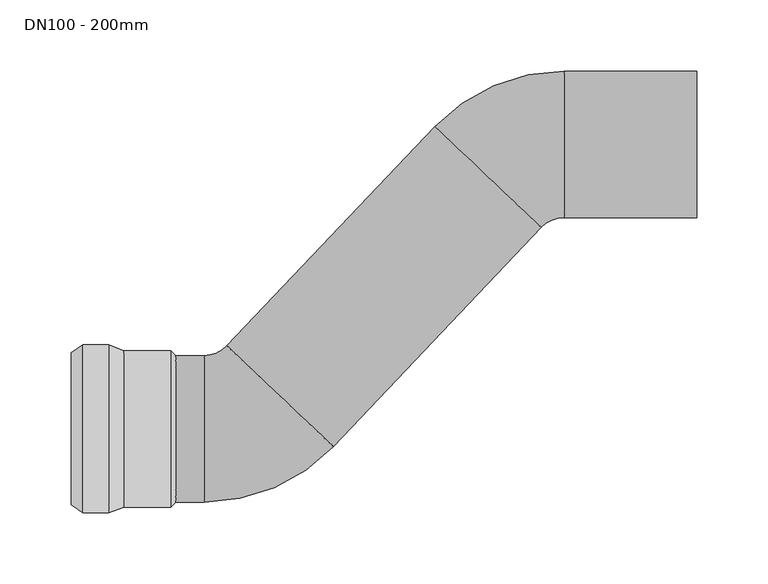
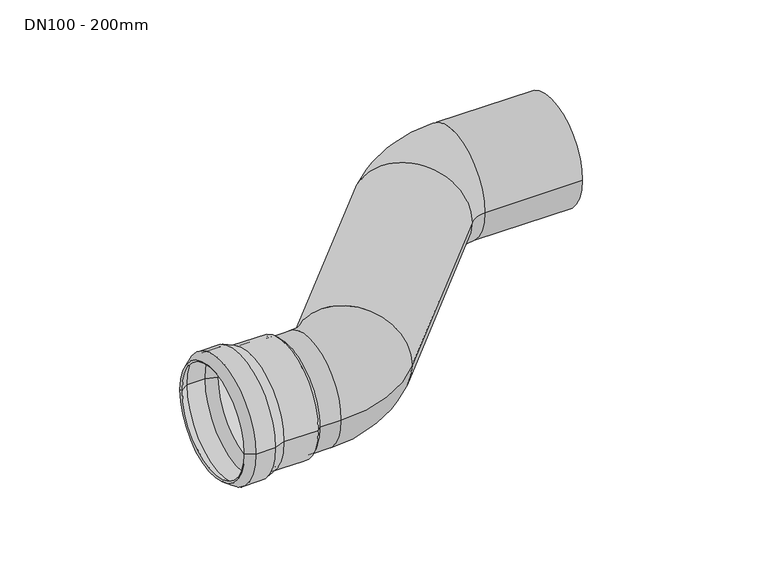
"""IFC4 building model written with IfcOpenShell, lengths in millimetres: valve geometry, PIA_ST_UN_GM-X s-bend_ACO : DN100 - 200mm."""

import ifcopenshell
import ifcopenshell.guid

model = None  # the IFC model being written
_history = None  # IfcOwnerHistory: only IFC2X3 demands one
_inside = {}  # id of a spatial element -> (the spatial element, [elements in it])
_under = {}  # id of a project, library or spatial element -> (it, [spatial elements below it])
_declared = {}  # id of a project -> (the project, [libraries it declares])
_typed = {}  # id of a type object -> (the type object, [elements of that type])
_made_of = {}  # id of a material, layer set ... -> (it, [elements and type objects made of it])


def new_model(schema):
    """Start an empty IFC model of exactly this schema.

    Asked for "IFC4X3", IfcOpenShell would pick the latest addendum, in which some entities
    have other attributes; the version numbers below select the first issue.
    IFC2X3 requires an IfcOwnerHistory on every rooted entity: one is made here for all.
    """
    global model, _history
    if schema == "IFC4X3":
        model = ifcopenshell.file(schema_version=(4, 3, 0, 0))
    else:
        model = ifcopenshell.file(schema=schema)
    _inside.clear()
    _under.clear()
    _declared.clear()
    _typed.clear()
    _made_of.clear()
    _history = None
    if model.schema == "IFC2X3":
        org = make("IfcOrganization", Name="unknown")
        user = make(
            "IfcPersonAndOrganization",
            ThePerson=make("IfcPerson", FamilyName="unknown"),
            TheOrganization=org,
        )
        app = make(
            "IfcApplication",
            ApplicationDeveloper=org,
            Version="unknown",
            ApplicationFullName="unknown",
            ApplicationIdentifier="unknown",
        )
        _history = make(
            "IfcOwnerHistory",
            OwningUser=user,
            OwningApplication=app,
            ChangeAction="ADDED",
            CreationDate=0,
        )
    return model


def make(cls, **values):
    """One entity of the class cls with the attributes given. An attribute that is None is left unset."""
    return model.create_entity(
        cls, **{name: value for name, value in values.items() if value is not None}
    )


def rooted(cls, **values):
    """An entity with a GlobalId (a new one), such as an element, a storey or a relation."""
    return make(cls, GlobalId=ifcopenshell.guid.new(), OwnerHistory=_history, **values)


def si_unit(unit_type, name, prefix=None):
    """IfcSIUnit, for example si_unit("LENGTHUNIT", "METRE", prefix="MILLI")."""
    return make("IfcSIUnit", UnitType=unit_type, Prefix=prefix, Name=name)


def assignment(units):
    """IfcUnitAssignment: the units of a project."""
    return None if units is None else make("IfcUnitAssignment", Units=units)


def point(xyz):
    """IfcCartesianPoint."""
    return None if xyz is None else make("IfcCartesianPoint", Coordinates=xyz)


def direction(xyz):
    """IfcDirection."""
    return None if xyz is None else make("IfcDirection", DirectionRatios=xyz)


def frame(location, z_axis=None, x_axis=None):
    """IfcAxis2Placement3D, a coordinate frame: its origin and axes. An axis left out is left unset."""
    return make(
        "IfcAxis2Placement3D",
        Location=point(location),
        Axis=direction(z_axis),
        RefDirection=direction(x_axis),
    )


def origin():
    """The frame at (0, 0, 0) with its axes left unset."""
    return frame((0.0, 0.0, 0.0))


def place(relative_to, where):
    """IfcLocalPlacement: puts the frame where relative to a parent placement (None: the world)."""
    return make(
        "IfcLocalPlacement", PlacementRelTo=relative_to, RelativePlacement=where
    )


def context(
    kind, dimensions, precision=None, world=None, true_north=None, identifier=None
):
    """IfcGeometricRepresentationContext, for example the 3D "Model" context."""
    return make(
        "IfcGeometricRepresentationContext",
        ContextIdentifier=identifier,
        ContextType=kind,
        CoordinateSpaceDimension=dimensions,
        Precision=precision,
        WorldCoordinateSystem=world,
        TrueNorth=true_north,
    )


def project(units=None, contexts=None):
    """IfcProject with its units and contexts."""
    return rooted(
        "IfcProject",
        Name="project",
        RepresentationContexts=contexts,
        UnitsInContext=assignment(units),
    )


def spatial(cls, under=None, at=None, **own):
    """A site, building, storey or space (cls), placed at a placement, below another one or the project."""
    s = rooted(cls, ObjectPlacement=at, **own)
    if under is not None:
        _under.setdefault(under.id(), (under, []))[1].append(s)
    return s


def polyline(points):
    """IfcPolyline through the points."""
    return make("IfcPolyline", Points=[point(p) for p in points])


def circle_curve(where, radius):
    """IfcCircle in the frame where."""
    return make("IfcCircle", Position=where, Radius=radius)


def ellipse_curve(where, semi_axis1, semi_axis2):
    """IfcEllipse in the frame where."""
    return make(
        "IfcEllipse", Position=where, SemiAxis1=semi_axis1, SemiAxis2=semi_axis2
    )


def trimmed(basis, trim1, trim2, sense, master):
    """IfcTrimmedCurve: the piece of a basis curve between two trims."""
    return make(
        "IfcTrimmedCurve",
        BasisCurve=basis,
        Trim1=trim1,
        Trim2=trim2,
        SenseAgreement=sense,
        MasterRepresentation=master,
    )


def shape(context_of_items, identifier, shape_type, items):
    """IfcShapeRepresentation: the items that make up one representation, for example the "Body"."""
    return make(
        "IfcShapeRepresentation",
        ContextOfItems=context_of_items,
        RepresentationIdentifier=identifier,
        RepresentationType=shape_type,
        Items=items,
    )


def source(mapping_origin, context_of_items, identifier, shape_type, items):
    """IfcRepresentationMap: a shape defined once, which mapped items show again and again."""
    return make(
        "IfcRepresentationMap",
        MappingOrigin=mapping_origin,
        MappedRepresentation=shape(context_of_items, identifier, shape_type, items),
    )


def transform(
    local_origin,
    x_axis=None,
    y_axis=None,
    z_axis=None,
    scale=None,
    scale2=None,
    scale3=None,
    uniform=True,
):
    """IfcCartesianTransformationOperator3D, or its non-uniform kind. x_axis, y_axis, z_axis: its Axis1, 2, 3."""
    if uniform:
        return make(
            "IfcCartesianTransformationOperator3D",
            Axis1=direction(x_axis),
            Axis2=direction(y_axis),
            LocalOrigin=point(local_origin),
            Scale=scale,
            Axis3=direction(z_axis),
        )
    return make(
        "IfcCartesianTransformationOperator3DnonUniform",
        Axis1=direction(x_axis),
        Axis2=direction(y_axis),
        LocalOrigin=point(local_origin),
        Scale=scale,
        Axis3=direction(z_axis),
        Scale2=scale2,
        Scale3=scale3,
    )


def mapped(mapping_source, mapping_target):
    """IfcMappedItem: shows the shape of a source again, moved by a transform."""
    return make(
        "IfcMappedItem", MappingSource=mapping_source, MappingTarget=mapping_target
    )


def made_of(thing, what):
    """Note that an element or type object is made of a material, layer set ...; save() writes the relation."""
    if what is not None:
        _made_of.setdefault(what.id(), (what, []))[1].append(thing)
    return thing


def element(
    cls,
    number,
    at=None,
    inside=None,
    cuts=None,
    type_object=None,
    material=None,
    context=None,
    identifier="Body",
    shape_type=None,
    held_by="IfcProductDefinitionShape",
    body=None,
    shapes=None,
    **own,
):
    """One element of the class cls, such as IfcWall. Its Tag is "e" and its number.

    at: its placement. inside: the storey or other place that contains it. cuts: it is an
    opening in that element (IfcRelVoidsElement). A single representation is given by context,
    identifier, shape_type and body (its items); several are given by shapes. held_by: the class
    of the entity that holds the representations. save() writes the other relations.
    """
    e = rooted(cls, Tag="e%d" % number, ObjectPlacement=at, **own)
    if body is not None:
        shapes = [shape(context, identifier, shape_type, body)]
    if shapes is not None:
        e.Representation = make(held_by, Representations=shapes)
    if inside is not None:
        _inside.setdefault(inside.id(), (inside, []))[1].append(e)
    if cuts is not None:
        rooted(
            "IfcRelVoidsElement", RelatingBuildingElement=cuts, RelatedOpeningElement=e
        )
    if type_object is not None:
        _typed.setdefault(type_object.id(), (type_object, []))[1].append(e)
    return made_of(e, material)


def aggregate(whole, parts):
    """IfcRelAggregates: a whole, such as a stair, and the parts it consists of."""
    return rooted("IfcRelAggregates", RelatingObject=whole, RelatedObjects=parts)


def save(model, path):
    """Write the relations noted so far, then the file.

    IfcRelAggregates (storeys below a building ...), IfcRelContainedInSpatialStructure (elements
    in a storey), IfcRelDefinesByType, IfcRelAssociatesMaterial and IfcRelDeclares: one each for
    every whole, place, type object, material and project.
    """
    for whole, parts in _under.values():
        aggregate(whole, parts)
    for where, things in _inside.values():
        rooted(
            "IfcRelContainedInSpatialStructure",
            RelatedElements=things,
            RelatingStructure=where,
        )
    for kind, things in _typed.values():
        rooted("IfcRelDefinesByType", RelatedObjects=things, RelatingType=kind)
    for what, things in _made_of.values():
        rooted("IfcRelAssociatesMaterial", RelatedObjects=things, RelatingMaterial=what)
    for by, libraries in _declared.values():
        rooted("IfcRelDeclares", RelatingContext=by, RelatedDefinitions=libraries)
    model.write(path)


def plane_surface(at):
    """IfcPlane: the flat surface through the origin of the frame at, square to its z axis."""
    return make("IfcPlane", Position=at)


def cylinder_surface(at, radius):
    """IfcCylindricalSurface: all points at the distance radius from the z axis of the frame at."""
    return make("IfcCylindricalSurface", Position=at, Radius=radius)


def revolved_surface(curve, axis_point, axis_direction):
    """IfcSurfaceOfRevolution: the curve turned about the line through axis_point along axis_direction."""
    return make(
        "IfcSurfaceOfRevolution",
        SweptCurve=make("IfcArbitraryOpenProfileDef", ProfileType="CURVE", Curve=curve),
        AxisPosition=make("IfcAxis1Placement", Location=point(axis_point), Axis=direction(axis_direction)),
    )


def advanced_brep(points, edges, surfaces, faces):
    """IfcAdvancedBrep: a solid bounded by faces that lie on surfaces and meet in shared edges.

    An edge is (start, end): straight between two places in points (the first is 0);
    or (start, end, curve); or (start, end, curve, False) where it runs against its curve.
    A face is (place in surfaces, loops), or (place, loops, False) where it looks against
    its surface's normal. A loop lists edges by number (the first is 1), with a minus sign
    where the edge is run from its end to its start. The first loop is the outer one.
    """
    corners = [point(p) for p in points]
    vertices = [make("IfcVertexPoint", VertexGeometry=c) for c in corners]
    made = []
    for start, end, *more in edges:
        made.append(
            make(
                "IfcEdgeCurve",
                EdgeStart=vertices[start],
                EdgeEnd=vertices[end],
                EdgeGeometry=more[0] if more else make("IfcPolyline", Points=[corners[start], corners[end]]),
                SameSense=more[1] if len(more) > 1 else True,
            )
        )
    hull = []
    for where, loops, *sense in faces:
        bounds = []
        for j, loop in enumerate(loops):
            ring = [make("IfcOrientedEdge", EdgeElement=made[abs(k) - 1], Orientation=k > 0) for k in loop]
            bounds.append(
                make(
                    "IfcFaceOuterBound" if j == 0 else "IfcFaceBound",
                    Bound=make("IfcEdgeLoop", EdgeList=ring),
                    Orientation=True,
                )
            )
        hull.append(make("IfcAdvancedFace", Bounds=bounds, FaceSurface=surfaces[where], SameSense=sense[0] if sense else True))
    return make("IfcAdvancedBrep", Outer=make("IfcClosedShell", CfsFaces=hull))


def dn100_200mm_f5a09feb(model_context):
    return source(origin(), model_context, "Body", "AdvancedBrep", [
        advanced_brep(
        [(-228.5, 59.0, 0.0), (-228.5, -59.0, 0.0), (-246.7, -59.0, 0.0), (-246.7, 59.0, 0.0), (-218.0, 55.0, 0.0), (-218.0, -55.0, 0.0), (-255.0, -53.5, 0.0), (-255.0, 53.5, 0.0), (-185.0, 55.0, 0.0), (-185.0, -55.0, 0.0), (-181.5, 51.5, 0.0), (-181.5, -51.5, 0.0), (-185.0, 51.5, 0.0), (-185.0, -51.5, 0.0), (-218.3680513, 53.0, 0.0), (-218.3680513, -53.0, 0.0), (-185.0, -53.0, 0.0), (-185.0, 53.0, 0.0), (-228.8680513, 57.0, 0.0), (-228.8680513, -57.0, 0.0), (-246.0974883, 57.0, 0.0), (-246.0974883, -57.0, 0.0), (-253.8952393, 51.8328156, 0.0), (-253.8952393, -51.8328156, 0.0)],
        [
            (0, 1, circle_curve(frame((-228.5, 0.0, 0.0), z_axis=(-1.0, 0.0, 0.0), x_axis=(0.0, -1.0, 0.0)), 59.0)),
            (1, 2),
            (2, 3, circle_curve(frame((-246.7, 0.0, 0.0), z_axis=(1.0, 0.0, 0.0), x_axis=(0.0, -1.0, 0.0)), 59.0)),
            (3, 0),
            (1, 0, circle_curve(frame((-228.5, 0.0, 0.0), z_axis=(-1.0, 0.0, 0.0), x_axis=(0.0, -1.0, 0.0)), 59.0)),
            (3, 2, circle_curve(frame((-246.7, 0.0, 0.0), z_axis=(1.0, 0.0, 0.0), x_axis=(0.0, -1.0, 0.0)), 59.0)),
            (4, 5, circle_curve(frame((-218.0, 0.0, 0.0), z_axis=(-1.0, 0.0, 0.0), x_axis=(0.0, -1.0, 0.0)), 55.0)),
            (5, 1),
            (0, 4),
            (5, 4, circle_curve(frame((-218.0, 0.0, 0.0), z_axis=(-1.0, 0.0, 0.0), x_axis=(0.0, -1.0, 0.0)), 55.0)),
            (2, 6),
            (6, 7, circle_curve(frame((-255.0, 0.0, 0.0), z_axis=(1.0, 0.0, 0.0), x_axis=(0.0, -1.0, 0.0)), 53.5)),
            (7, 3),
            (7, 6, circle_curve(frame((-255.0, 0.0, 0.0), z_axis=(1.0, 0.0, 0.0), x_axis=(0.0, -1.0, 0.0)), 53.5)),
            (8, 9, circle_curve(frame((-185.0, 0.0, 0.0), z_axis=(-1.0, 0.0, 0.0), x_axis=(0.0, -1.0, 0.0)), 55.0)),
            (9, 5),
            (4, 8),
            (9, 8, circle_curve(frame((-185.0, 0.0, 0.0), z_axis=(-1.0, 0.0, 0.0), x_axis=(0.0, -1.0, 0.0)), 55.0)),
            (10, 11, circle_curve(frame((-181.5, 0.0, 0.0), z_axis=(-1.0, 0.0, 0.0), x_axis=(0.0, -1.0, 0.0)), 51.5)),
            (11, 9),
            (8, 10),
            (11, 10, circle_curve(frame((-181.5, 0.0, 0.0), z_axis=(-1.0, 0.0, 0.0), x_axis=(0.0, -1.0, 0.0)), 51.5)),
            (12, 13, circle_curve(frame((-185.0, 0.0, 0.0), z_axis=(-1.0, 0.0, 0.0), x_axis=(0.0, -1.0, 0.0)), 51.5)),
            (13, 11),
            (10, 12),
            (13, 12, circle_curve(frame((-185.0, 0.0, 0.0), z_axis=(-1.0, 0.0, 0.0), x_axis=(0.0, -1.0, 0.0)), 51.5)),
            (14, 15, circle_curve(frame((-218.3680513, 0.0, 0.0), z_axis=(-1.0, 0.0, 0.0), x_axis=(0.0, -1.0, 0.0)), 53.0)),
            (15, 16),
            (16, 17, circle_curve(frame((-185.0, 0.0, 0.0), z_axis=(1.0, 0.0, 0.0), x_axis=(0.0, -1.0, 0.0)), 53.0)),
            (17, 14),
            (15, 14, circle_curve(frame((-218.3680513, 0.0, 0.0), z_axis=(-1.0, 0.0, 0.0), x_axis=(0.0, -1.0, 0.0)), 53.0)),
            (17, 16, circle_curve(frame((-185.0, 0.0, 0.0), z_axis=(1.0, 0.0, 0.0), x_axis=(0.0, -1.0, 0.0)), 53.0)),
            (18, 19, circle_curve(frame((-228.8680513, 0.0, 0.0), z_axis=(-1.0, 0.0, 0.0), x_axis=(0.0, -1.0, 0.0)), 57.0)),
            (19, 15),
            (14, 18),
            (19, 18, circle_curve(frame((-228.8680513, 0.0, 0.0), z_axis=(-1.0, 0.0, 0.0), x_axis=(0.0, -1.0, 0.0)), 57.0)),
            (20, 21, circle_curve(frame((-246.0974883, 0.0, 0.0), z_axis=(-1.0, 0.0, 0.0), x_axis=(0.0, -1.0, 0.0)), 57.0)),
            (21, 19),
            (18, 20),
            (21, 20, circle_curve(frame((-246.0974883, 0.0, 0.0), z_axis=(-1.0, 0.0, 0.0), x_axis=(0.0, -1.0, 0.0)), 57.0)),
            (22, 23, circle_curve(frame((-253.8952393, 0.0, 0.0), z_axis=(-1.0, 0.0, 0.0), x_axis=(0.0, -1.0, 0.0)), 51.8328156)),
            (23, 21),
            (20, 22),
            (23, 22, circle_curve(frame((-253.8952393, 0.0, 0.0), z_axis=(-1.0, 0.0, 0.0), x_axis=(0.0, -1.0, 0.0)), 51.8328156)),
            (6, 23),
            (22, 7),
            (16, 13),
            (12, 17),
        ],
        [
            cylinder_surface(frame((-251.6444117, 0.0, 0.0), z_axis=(1.0, 0.0, 0.0), x_axis=(0.0, -1.0, 0.0)), 59.0),
            revolved_surface(polyline([(-228.5, -59.0, 0.0), (-218.0, -55.0, 0.0)]), (-251.6444117, 0.0, 0.0), (1.0, 0.0, 0.0)),
            revolved_surface(polyline([(-255.0, -53.5, 0.0), (-246.7, -59.0, 0.0)]), (-251.6444117, 0.0, 0.0), (1.0, 0.0, 0.0)),
            cylinder_surface(frame((-251.6444117, 0.0, 0.0), z_axis=(1.0, 0.0, 0.0), x_axis=(0.0, -1.0, 0.0)), 55.0),
            revolved_surface(polyline([(-185.0, -55.0, 0.0), (-181.5, -51.5, 0.0)]), (-251.6444117, 0.0, 0.0), (1.0, 0.0, 0.0)),
            revolved_surface(polyline([(-181.5, -51.5, 0.0), (-185.0, -51.5, 0.0)]), (-251.6444117, 0.0, 0.0), (1.0, 0.0, 0.0)),
            revolved_surface(polyline([(-185.0, -53.0, 0.0), (-218.3680513, -53.0, 0.0)]), (-251.6444117, 0.0, 0.0), (1.0, 0.0, 0.0)),
            revolved_surface(polyline([(-218.3680513, -53.0, 0.0), (-228.8680513, -57.0, 0.0)]), (-251.6444117, 0.0, 0.0), (1.0, 0.0, 0.0)),
            revolved_surface(polyline([(-228.8680513, -57.0, 0.0), (-246.0974883, -57.0, 0.0)]), (-251.6444117, 0.0, 0.0), (1.0, 0.0, 0.0)),
            revolved_surface(polyline([(-246.0974883, -57.0, 0.0), (-253.8952393, -51.8328156, 0.0)]), (-251.6444117, 0.0, 0.0), (1.0, 0.0, 0.0)),
            revolved_surface(polyline([(-253.8952393, -51.8328156, 0.0), (-255.0, -53.5, 0.0)]), (-251.6444117, 0.0, 0.0), (1.0, 0.0, 0.0)),
            plane_surface(frame((-185.0, 0.0, 0.0), z_axis=(-1.0, 0.0, 0.0), x_axis=(0.0, -1.0, 0.0))),
        ],
        [
            (0, [[1, 2, 3, 4]]),
            (0, [[5, -4, 6, -2]]),
            (1, [[7, 8, -1, 9]]),
            (1, [[10, -9, -5, -8]]),
            (2, [[-3, 11, 12, 13]]),
            (2, [[-6, -13, 14, -11]]),
            (3, [[15, 16, -7, 17]]),
            (3, [[18, -17, -10, -16]]),
            (4, [[19, 20, -15, 21]]),
            (4, [[22, -21, -18, -20]]),
            (5, [[23, 24, -19, 25]]),
            (5, [[26, -25, -22, -24]]),
            (6, [[27, 28, 29, 30]]),
            (6, [[31, -30, 32, -28]]),
            (7, [[33, 34, -27, 35]]),
            (7, [[36, -35, -31, -34]]),
            (8, [[37, 38, -33, 39]]),
            (8, [[40, -39, -36, -38]]),
            (9, [[41, 42, -37, 43]]),
            (9, [[44, -43, -40, -42]]),
            (10, [[-12, 45, -41, 46]]),
            (10, [[-14, -46, -44, -45]]),
            (11, [[-29, 47, -23, 48]]),
            (11, [[-32, -48, -26, -47]]),
        ],
    ),
        advanced_brep(
        [(-185.0, -51.5, 0.0), (-185.0, 51.5, 0.0), (-161.55958, -51.5, 0.0), (-161.55958, 51.5, 0.0), (-145.4517986, 58.4204491, 0.0), (-70.7382383, -12.4800722, 0.0), (75.4588852, 141.5795509, 0.0), (0.745325, 212.4800722, 0.0), (91.5666667, 251.5, 0.0), (91.5666667, 148.5, 0.0), (185.0, 148.5, 0.0), (185.0, 251.5, 0.0)],
        [
            (0, 1, circle_curve(frame((-185.0, 0.0, 0.0), z_axis=(-1.0, 0.0, 0.0), x_axis=(0.0, 1.0, 0.0)), 51.5)),
            (1, 0, circle_curve(frame((-185.0, 0.0, 0.0), z_axis=(-1.0, 0.0, 0.0), x_axis=(0.0, 1.0, 0.0)), 51.5)),
            (0, 2),
            (2, 3, circle_curve(frame((-161.55958, 0.0, 0.0), z_axis=(-1.0, 0.0, 0.0), x_axis=(0.0, 1.0, 0.0)), 51.5)),
            (3, 1),
            (3, 2, circle_curve(frame((-161.55958, 0.0, 0.0), z_axis=(-1.0, 0.0, 0.0), x_axis=(0.0, 1.0, 0.0)), 51.5)),
            (4, 3, circle_curve(frame((-161.55958, 73.7061629, 0.0), z_axis=(0.0, 0.0, -1.0), x_axis=(0.0, -1.0, 0.0)), 22.2061629)),
            (2, 5, circle_curve(frame((-161.55958, 73.7061629, 0.0), z_axis=(0.0, 0.0, 1.0), x_axis=(0.0, -1.0, 0.0)), 125.2061629)),
            (5, 4, circle_curve(frame((-108.0950184, 22.9701884, 0.0), z_axis=(-0.688354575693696, -0.7253743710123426, 0.0), x_axis=(-0.7253743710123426, 0.688354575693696, 0.0)), 51.5)),
            (4, 5, circle_curve(frame((-108.0950184, 22.9701884, 0.0), z_axis=(-0.6883545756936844, -0.7253743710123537, 0.0), x_axis=(-0.7253743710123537, 0.6883545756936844, 0.0)), 51.5)),
            (5, 6),
            (6, 7, circle_curve(frame((38.1021051, 177.0298116, 0.0), z_axis=(-0.6883545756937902, -0.7253743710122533, 0.0), x_axis=(-0.7253743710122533, 0.6883545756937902, 0.0)), 51.5)),
            (7, 4),
            (7, 6, circle_curve(frame((38.1021051, 177.0298116, 0.0), z_axis=(-0.6883545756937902, -0.7253743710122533, 0.0), x_axis=(-0.7253743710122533, 0.6883545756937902, 0.0)), 51.5)),
            (8, 7, circle_curve(frame((91.5666667, 126.2938371, 0.0), z_axis=(0.0, 0.0, 1.0), x_axis=(-0.7253743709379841, 0.6883545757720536, 0.0)), 125.2061629)),
            (6, 9, circle_curve(frame((91.5666667, 126.2938371, 0.0), z_axis=(0.0, 0.0, -1.0), x_axis=(-0.7253743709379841, 0.6883545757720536, 0.0)), 22.2061629)),
            (9, 8, circle_curve(frame((91.5666667, 200.0, 0.0), z_axis=(-1.0, 0.0, 0.0), x_axis=(0.0, 1.0, 0.0)), 51.5)),
            (8, 9, circle_curve(frame((91.5666667, 200.0, 0.0), z_axis=(-1.0, 0.0, 0.0), x_axis=(0.0, 1.0, 0.0)), 51.5)),
            (10, 11, circle_curve(frame((185.0, 200.0, 0.0), z_axis=(1.0, 0.0, 0.0), x_axis=(0.0, 1.0, 0.0)), 51.5)),
            (11, 10, circle_curve(frame((185.0, 200.0, 0.0), z_axis=(1.0, 0.0, 0.0), x_axis=(0.0, 1.0, 0.0)), 51.5)),
            (9, 10),
            (11, 8),
        ],
        [
            plane_surface(frame((-185.0, 0.0, 0.0), z_axis=(-1.0, 0.0, 0.0), x_axis=(0.0, 0.0, 1.0))),
            cylinder_surface(frame((-185.0, 0.0, 0.0), z_axis=(-1.0, 0.0, 0.0), x_axis=(0.0, 1.0, 0.0)), 51.5),
            revolved_surface(trimmed(ellipse_curve(frame((-161.55958, 0.0, 0.0), z_axis=(-1.0, 0.0, 0.0), x_axis=(0.0, 1.0, 0.0)), 51.5, 51.5), [point((-161.55958, -51.5, 0.0))], [point((-161.55958, 51.5, 0.0))], True, "CARTESIAN"), (-161.55958, 73.7061629, 0.0), (0.0, 0.0, 1.0)),
            revolved_surface(trimmed(ellipse_curve(frame((-161.55958, 0.0, 0.0), z_axis=(-1.0, 0.0, 0.0), x_axis=(0.0, 1.0, 0.0)), 51.5, 51.5), [point((-161.55958, 51.5, 0.0))], [point((-161.55958, -51.5, 0.0))], True, "CARTESIAN"), (-161.55958, 73.7061629, 0.0), (0.0, 0.0, 1.0)),
            cylinder_surface(frame((-108.0950184, 22.9701884, 0.0), z_axis=(-0.6883545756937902, -0.7253743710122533, 0.0), x_axis=(-0.7253743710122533, 0.6883545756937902, 0.0)), 51.5),
            revolved_surface(trimmed(ellipse_curve(frame((38.1021051, 177.0298116, 0.0), z_axis=(-0.6883545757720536, -0.7253743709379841, 0.0), x_axis=(-0.7253743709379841, 0.6883545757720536, 0.0)), 51.5, 51.5), [point((75.4588852, 141.5795509, 0.0))], [point((0.745325, 212.4800722, 0.0))], True, "CARTESIAN"), (91.5666667, 126.2938371, 0.0), (0.0, 0.0, -1.0)),
            revolved_surface(trimmed(ellipse_curve(frame((38.1021051, 177.0298116, 0.0), z_axis=(-0.6883545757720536, -0.7253743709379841, 0.0), x_axis=(-0.7253743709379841, 0.6883545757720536, 0.0)), 51.5, 51.5), [point((0.745325, 212.4800722, 0.0))], [point((75.4588852, 141.5795509, 0.0))], True, "CARTESIAN"), (91.5666667, 126.2938371, 0.0), (0.0, 0.0, -1.0)),
            plane_surface(frame((185.0, 200.0, 0.0), z_axis=(1.0, 0.0, 0.0), x_axis=(0.0, 0.0, 1.0))),
            cylinder_surface(frame((91.5666667, 200.0, 0.0), z_axis=(-1.0, 0.0, 0.0), x_axis=(0.0, 1.0, 0.0)), 51.5),
        ],
        [
            (0, [[1, 2]]),
            (1, [[-1, 3, 4, 5]]),
            (1, [[-2, -5, 6, -3]]),
            (2, [[7, -4, 8, 9]]),
            (3, [[-8, -6, -7, 10]]),
            (4, [[-9, 11, 12, 13]]),
            (4, [[-10, -13, 14, -11]]),
            (5, [[15, -12, 16, 17]]),
            (6, [[-16, -14, -15, 18]]),
            (7, [[19, 20]]),
            (8, [[-17, 21, -20, 22]]),
            (8, [[-18, -22, -19, -21]]),
        ],
    ),
    ])


if __name__ == "__main__":
    model = new_model("IFC4")
    model_context = context("Model", 3, world=origin())
    ifc_project = project(units=[si_unit("LENGTHUNIT", "METRE", prefix="MILLI")], contexts=[model_context])
    site = spatial("IfcSite", under=ifc_project)
    building = spatial("IfcBuilding", under=site)
    placement = place(None, origin())
    dn100_200mm_shape = dn100_200mm_f5a09feb(model_context)
    element("IfcValve", 1, ObjectType="PIA_ST_UN_GM-X s-bend_ACO : DN100 - 200mm", at=placement, inside=building, context=model_context, shape_type="MappedRepresentation", body=[
        mapped(dn100_200mm_shape, transform((0.0, 0.0, 0.0), x_axis=(1.0, 0.0, 0.0), y_axis=(0.0, 1.0, 0.0), z_axis=(0.0, 0.0, 1.0))),
    ])
    save(model, "model.ifc")
